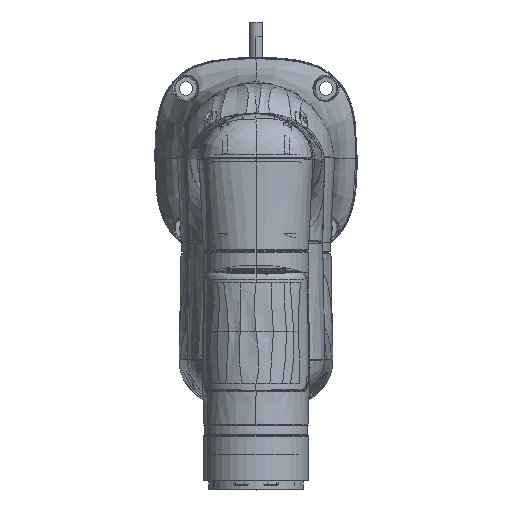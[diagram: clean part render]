
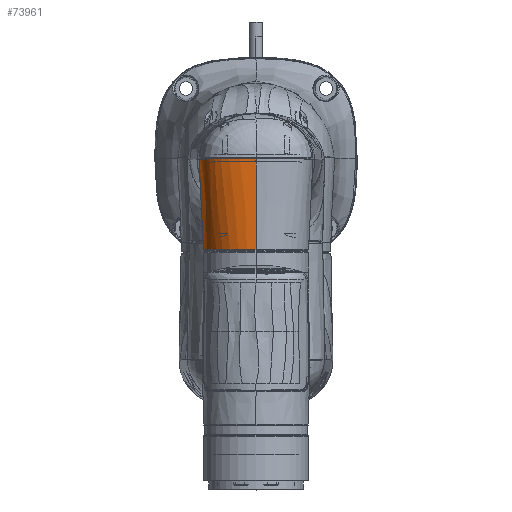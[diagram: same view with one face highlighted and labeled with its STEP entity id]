
A CAD part, top view. The second image highlights one B-rep face of the part: STEP entity #73961.
In plain terms, the highlighted free-form (B-spline) face has degree [3, 3] with [10, 5] control points.
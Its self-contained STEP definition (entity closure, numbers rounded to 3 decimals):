
#72910=CARTESIAN_POINT('',(0.,62.009,
983.017));
#72911=CARTESIAN_POINT('',(2.332,62.009,983.017));
#72912=CARTESIAN_POINT('',(6.974,62.012,982.558));
#72913=CARTESIAN_POINT('',(13.608,62.022,980.537));
#72914=CARTESIAN_POINT('',(19.665,62.032,977.3));
#72915=CARTESIAN_POINT('',(25.021,62.04,972.904));
#72916=CARTESIAN_POINT('',(29.369,62.044,967.594));
#72917=CARTESIAN_POINT('',(32.612,62.039,961.515));
#72918=CARTESIAN_POINT('',(34.596,62.028,954.891));
#72919=CARTESIAN_POINT('',(35.046,62.024,950.3));
#72920=CARTESIAN_POINT('',(35.048,62.024,948.));
#72931=CARTESIAN_POINT('',(0.,1.6,
984.072));
#72933=CARTESIAN_POINT('',(0.,1.6,
984.072));
#72934=CARTESIAN_POINT('',(2.865,1.6,984.072));
#72935=CARTESIAN_POINT('',(8.361,1.6,983.821));
#72936=CARTESIAN_POINT('',(15.418,1.6,982.651));
#72937=CARTESIAN_POINT('',(21.525,1.6,980.646));
#72938=CARTESIAN_POINT('',(26.771,1.6,977.915));
#72939=CARTESIAN_POINT('',(31.27,1.6,974.158));
#72940=CARTESIAN_POINT('',(35.974,1.6,966.665));
#72941=CARTESIAN_POINT('',(37.795,1.6,957.152));
#72942=CARTESIAN_POINT('',(37.999,1.6,948.073));
#73084=CARTESIAN_POINT('',(0.,62.009,
983.017));
#73086=DIRECTION('',(0.,-1.,0.017));
#73087=VECTOR('',#73086,60.418);
#73088=CARTESIAN_POINT('',(0.,62.009,
983.017));
#73089=LINE('',#73088,#73087);
#73566=CARTESIAN_POINT('',(37.999,1.6,948.073));
#73567=CARTESIAN_POINT('',(37.502,11.774,948.012));
#73568=CARTESIAN_POINT('',(36.515,31.916,947.999));
#73569=CARTESIAN_POINT('',(35.534,52.057,948.));
#73570=CARTESIAN_POINT('',(35.048,62.024,948.));
#73796=VERTEX_POINT('',#72931);
#73797=VERTEX_POINT('',#72942);
#73814=VERTEX_POINT('',#73084);
#73821=VERTEX_POINT('',#73570);
#73901=CARTESIAN_POINT('',(-0.466,62.647,
983.003));
#73902=CARTESIAN_POINT('',(-0.489,52.472,
983.181));
#73903=CARTESIAN_POINT('',(-0.536,31.922,
983.54));
#73904=CARTESIAN_POINT('',(-0.583,11.372,
983.899));
#73905=CARTESIAN_POINT('',(-0.607,0.996,
984.08));
#73906=CARTESIAN_POINT('',(1.906,62.647,983.034));
#73907=CARTESIAN_POINT('',(2.004,52.472,983.21));
#73908=CARTESIAN_POINT('',(2.201,31.922,983.564));
#73909=CARTESIAN_POINT('',(2.398,11.372,983.919));
#73910=CARTESIAN_POINT('',(2.498,0.996,
984.099));
#73911=CARTESIAN_POINT('',(6.654,62.647,982.616));
#73912=CARTESIAN_POINT('',(6.912,52.472,982.821));
#73913=CARTESIAN_POINT('',(7.433,31.922,983.233));
#73914=CARTESIAN_POINT('',(7.954,11.372,983.647));
#73915=CARTESIAN_POINT('',(8.217,0.996,
983.859));
#73916=CARTESIAN_POINT('',(13.423,62.647,980.593));
#73917=CARTESIAN_POINT('',(13.755,52.472,980.935));
#73918=CARTESIAN_POINT('',(14.427,31.922,981.624));
#73919=CARTESIAN_POINT('',(15.099,11.372,982.315));
#73920=CARTESIAN_POINT('',(15.438,0.996,
982.672));
#73921=CARTESIAN_POINT('',(19.582,62.647,977.308));
#73922=CARTESIAN_POINT('',(19.905,52.472,977.862));
#73923=CARTESIAN_POINT('',(20.56,31.922,978.981));
#73924=CARTESIAN_POINT('',(21.214,11.372,980.102));
#73925=CARTESIAN_POINT('',(21.545,0.996,
980.679));
#73926=CARTESIAN_POINT('',(24.919,62.647,972.937));
#73927=CARTESIAN_POINT('',(25.228,52.472,973.763));
#73928=CARTESIAN_POINT('',(25.851,31.922,975.433));
#73929=CARTESIAN_POINT('',(26.474,11.372,977.106));
#73930=CARTESIAN_POINT('',(26.789,0.996,
977.965));
#73931=CARTESIAN_POINT('',(29.3,62.647,967.608));
#73932=CARTESIAN_POINT('',(29.628,52.472,968.695));
#73933=CARTESIAN_POINT('',(30.291,31.922,970.891));
#73934=CARTESIAN_POINT('',(30.954,11.372,973.092));
#73935=CARTESIAN_POINT('',(31.289,0.996,
974.224));
#73936=CARTESIAN_POINT('',(33.693,62.647,959.402));
#73937=CARTESIAN_POINT('',(34.082,52.472,960.592));
#73938=CARTESIAN_POINT('',(34.868,31.922,962.995));
#73939=CARTESIAN_POINT('',(35.654,11.372,965.406));
#73940=CARTESIAN_POINT('',(36.051,0.996,
966.654));
#73941=CARTESIAN_POINT('',(35.056,62.647,952.403));
#73942=CARTESIAN_POINT('',(35.521,52.472,953.138));
#73943=CARTESIAN_POINT('',(36.459,31.922,954.622));
#73944=CARTESIAN_POINT('',(37.398,11.372,956.117));
#73945=CARTESIAN_POINT('',(37.872,0.996,
956.915));
#73946=CARTESIAN_POINT('',(35.016,62.647,947.692));
#73947=CARTESIAN_POINT('',(35.515,52.472,947.642));
#73948=CARTESIAN_POINT('',(36.521,31.922,947.538));
#73949=CARTESIAN_POINT('',(37.528,11.372,947.45));
#73950=CARTESIAN_POINT('',(38.037,0.996,
947.463));
#73951=B_SPLINE_SURFACE_WITH_KNOTS('',3,3,((#73901,#73902,#73903,#73904,#73905),
(#73906,#73907,#73908,#73909,#73910),(#73911,#73912,#73913,#73914,#73915),(
#73916,#73917,#73918,#73919,#73920),(#73921,#73922,#73923,#73924,#73925),
(#73926,#73927,#73928,#73929,#73930),(#73931,#73932,#73933,#73934,#73935),(
#73936,#73937,#73938,#73939,#73940),(#73941,#73942,#73943,#73944,#73945),
(#73946,#73947,#73948,#73949,#73950)),.UNSPECIFIED.,.F.,.F.,.F.,(4,1,1,1,1,1,1,
4),(4,1,4),(-0.008,0.121,0.25,0.375,0.5,0.625,
0.75,1.006),(0.006,0.502,1.008),
.UNSPECIFIED.);
#73953=ORIENTED_EDGE('',*,*,#73952,.F.);
#73955=ORIENTED_EDGE('',*,*,#73954,.F.);
#73956=ORIENTED_EDGE('',*,*,#73890,.T.);
#73958=ORIENTED_EDGE('',*,*,#73957,.F.);
#73959=EDGE_LOOP('',(#73953,#73955,#73956,#73958));
#73960=FACE_OUTER_BOUND('',#73959,.F.);
#73961=ADVANCED_FACE('',(#73960),#73951,.F.);
#72921=B_SPLINE_CURVE_WITH_KNOTS('',3,(#72910,#72911,#72912,#72913,#72914,
#72915,#72916,#72917,#72918,#72919,#72920),.UNSPECIFIED.,.F.,.F.,(4,1,1,1,1,1,1,
1,4),(0.,0.125,0.25,0.375,0.5,0.625,0.75,0.875,1.),
.UNSPECIFIED.);
#72943=B_SPLINE_CURVE_WITH_KNOTS('',3,(#72933,#72934,#72935,#72936,#72937,
#72938,#72939,#72940,#72941,#72942),.UNSPECIFIED.,.F.,.F.,(4,1,1,1,1,1,1,4),(
0.,0.121,0.25,0.375,0.5,
0.625,0.75,1.),.UNSPECIFIED.);
#73571=B_SPLINE_CURVE_WITH_KNOTS('',3,(#73566,#73567,#73568,#73569,#73570),
.UNSPECIFIED.,.F.,.F.,(4,1,4),(0.,0.505,1.),.UNSPECIFIED.);
#73890=EDGE_CURVE('',#73814,#73821,#72921,.T.);
#73952=EDGE_CURVE('',#73796,#73797,#72943,.T.);
#73954=EDGE_CURVE('',#73814,#73796,#73089,.T.);
#73957=EDGE_CURVE('',#73797,#73821,#73571,.T.);
